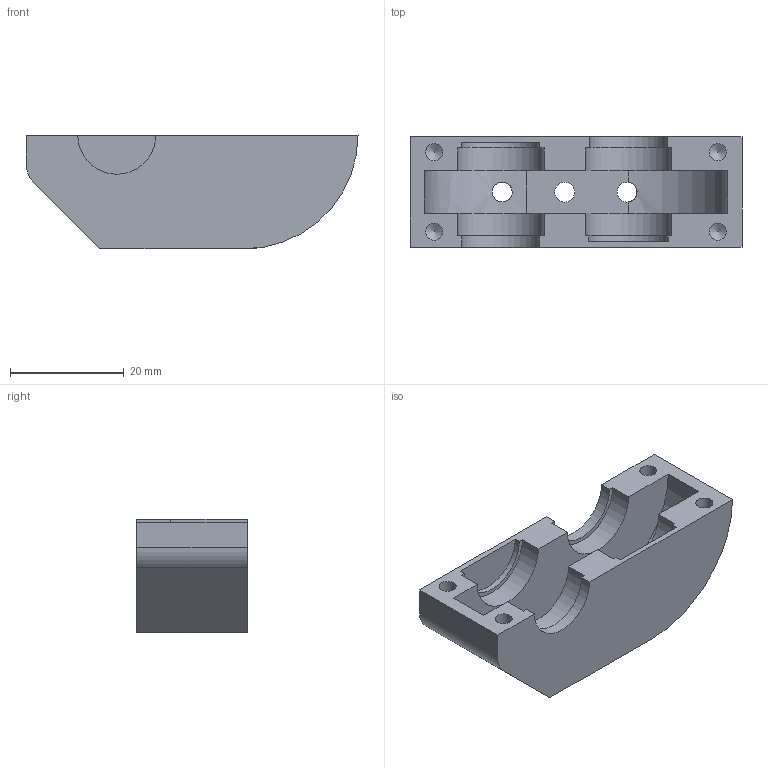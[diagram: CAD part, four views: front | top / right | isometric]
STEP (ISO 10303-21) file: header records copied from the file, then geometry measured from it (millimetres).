
FILE_DESCRIPTION( ( '' ), ' ' );
FILE_NAME( '/vol/tmp/translate-146992862328054443/5b317fd73f476d1102fc8112.step', '2018-06-25T23:50:48', ( '' ), ( '' ), ' ', ' ', ' ' );
FILE_SCHEMA( ( 'AUTOMOTIVE_DESIGN { 1 0 10303 214 1 1 1 1 }' ) );
Length unit declared in the file: metre
Products named in the file (1): Gearbox
Bounding box: 58.5 x 19.5 x 20 mm (x, y, z)
Volume: 11139.7 mm3; surface area: 6751.8 mm2
Topology: 1 solids, 1 shells, 41 faces, 123 edges, 82 vertices
Faces by surface type: cylinder 18, plane 16, cone 4, bspline 2, extrusion 1
Full cylindrical faces by diameter (mm): 3 x4, 3.5 x3
Entity records: 1731 total; most frequent: CARTESIAN_POINT 360, DIRECTION 205, ORIENTED_EDGE 204, EDGE_CURVE 102, VERTEX_POINT 76, AXIS2_PLACEMENT_3D 74, VECTOR 57, EDGE_LOOP 56
